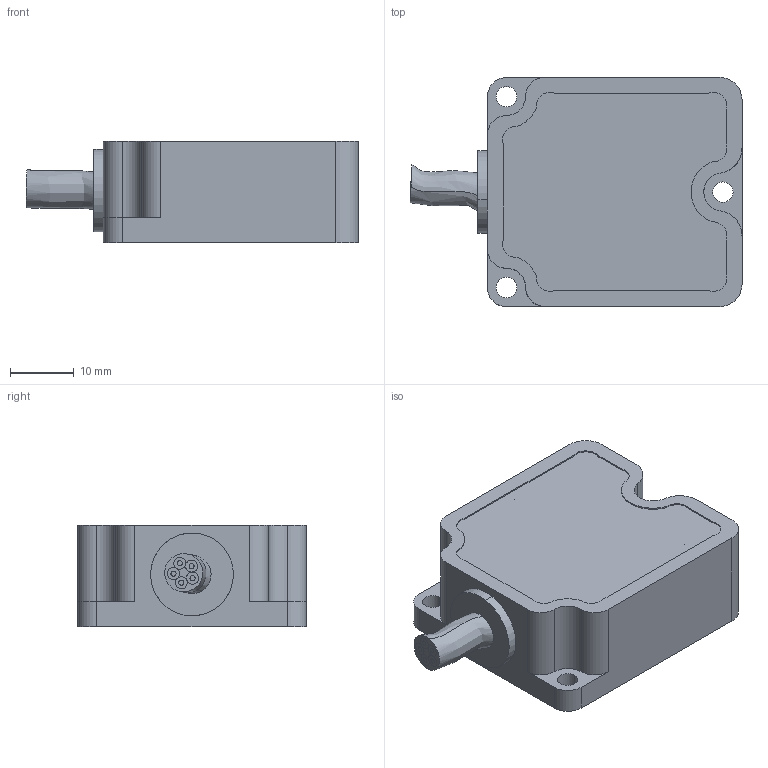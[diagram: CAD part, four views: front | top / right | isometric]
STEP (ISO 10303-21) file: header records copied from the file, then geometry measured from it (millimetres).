
FILE_DESCRIPTION (( 'STEP AP214' ), '1' );
FILE_NAME ('HI14XXX_3D-堤盄.STEP', '2023-08-18T01:24:09', ( '' ), ( '' ), 'SwSTEP 2.0', 'SolidWorks 2016', '' );
FILE_SCHEMA (( 'AUTOMOTIVE_DESIGN' ));
Length unit declared in the file: millimetre
Products named in the file (1): HI14XXX_3D-堤盄
Bounding box: 52.16 x 36 x 16 mm (x, y, z)
Volume: 8738.6 mm3; surface area: 10873.5 mm2
Topology: 3 solids, 3 shells, 226 faces, 593 edges, 381 vertices
Faces by surface type: cylinder 141, plane 61, cone 22, bspline 2
Entity records: 9769 total; most frequent: CARTESIAN_POINT 1425, DIRECTION 1321, ORIENTED_EDGE 1158, EDGE_CURVE 579, AXIS2_PLACEMENT_3D 523, VERTEX_POINT 381, CIRCLE 298, LINE 275
